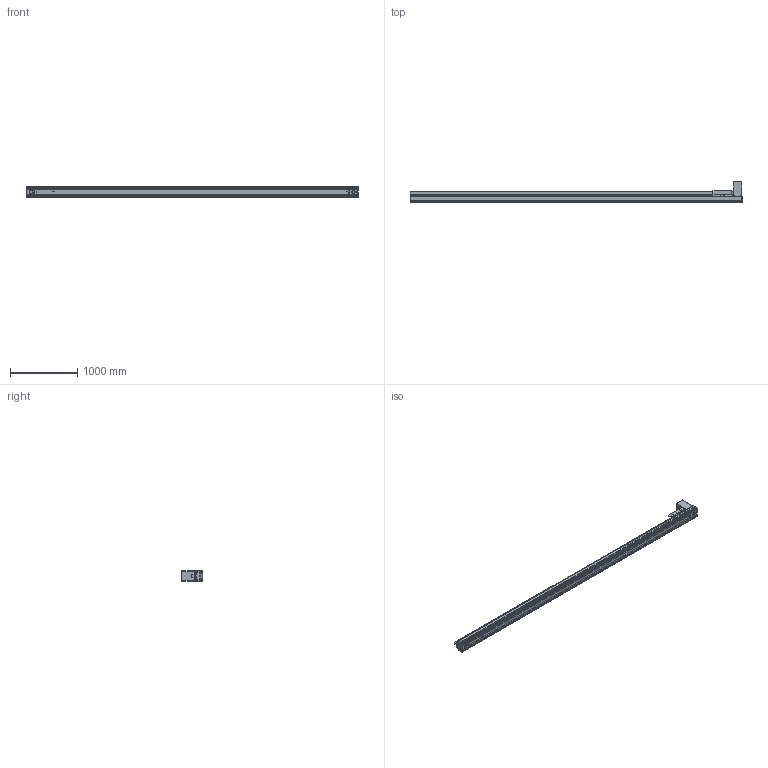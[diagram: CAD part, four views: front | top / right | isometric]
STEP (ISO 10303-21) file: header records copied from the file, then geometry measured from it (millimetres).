
FILE_DESCRIPTION((''),'2;1');
FILE_NAME('BE50G-BT-L19N-X35_IGS_PRT','2017-06-18T',(' '),(''),'PRO/ENGINEER BY PARAMETRIC TECHNOLOGY CORPORATION, 2015030','PRO/ENGINEER BY PARAMETRIC TECHNOLOGY CORPORATION, 2015030','');
FILE_SCHEMA(('CONFIG_CONTROL_DESIGN'));
Products named in the file (1): BE50G-BT-L19N-X35_IGS_PRT
Bounding box: 4920 x 309 x 160 mm (x, y, z)
Volume: 3165139.9 mm3; surface area: 9599439.4 mm2
Topology: 12 solids, 418 shells, 2424 faces, 7533 edges, 5177 vertices
Faces by surface type: cylinder 1467, plane 676, cone 238, sphere 23, torus 20
Entity records: 88681 total; most frequent: CARTESIAN_POINT 20672, DIRECTION 14220, ORIENTED_EDGE 13570, EDGE_CURVE 7459, AXIS2_PLACEMENT_3D 5461, VERTEX_POINT 5177, VECTOR 3298, LINE 3298
